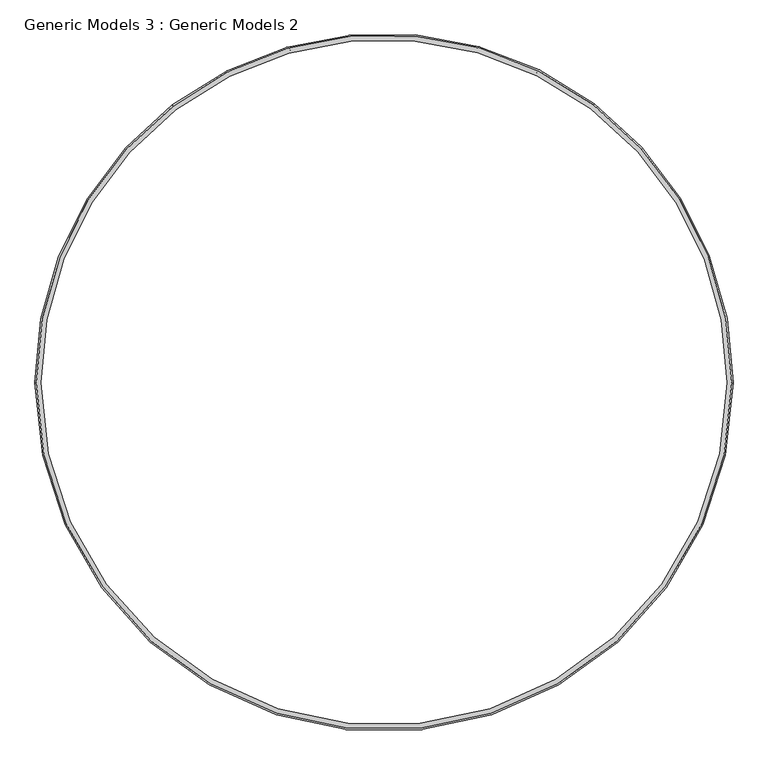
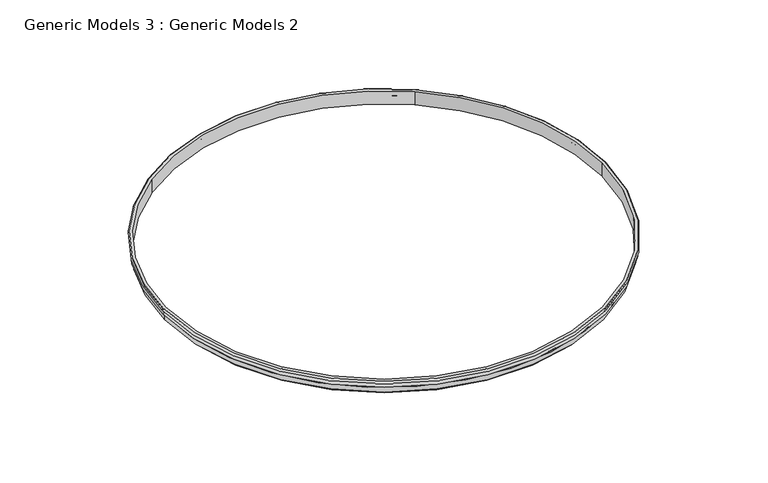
"""IFC4 building model written with IfcOpenShell, lengths in millimetres: proxy geometry, Generic Models 3 : Generic Models 2."""

from ifc_helpers import new_model, si_unit, point, frame, origin, place, context, project, spatial, polyline, circle_curve, ellipse_curve, trimmed, source, transform, mapped, element, save
from ifc_brep_helpers import plane_surface, cylinder_surface, revolved_surface, advanced_brep


def generic_models_3_generic_models_2_9ccc242b(model_context):
    return source(origin(), model_context, "Body", "AdvancedBrep", [
        advanced_brep(
        [(-5445.9379245, 4437.8273995, 10865.9753509), (-11351.0338038, 4422.8296405, 10865.9753509), (-11342.889099, 4412.1435282, 10942.1753509), (-5454.0282434, 4427.1000535, 10942.1753509), (-5461.6753231, 4416.9604198, 10840.5753509), (-11335.190613, 4402.0428692, 10840.5753509), (-11335.190613, 4402.0428692, 10865.9753509), (-5461.6753231, 4416.9604198, 10865.9753509), (-5469.3224029, 4406.8207861, 10726.2753509), (-11327.492127, 4391.9422102, 10726.2753509), (-11327.492127, 4391.9422102, 10840.5753509), (-5469.3224029, 4406.8207861, 10840.5753509), (-5480.7930225, 4391.6113356, 10700.8753509), (-11315.9443979, 4376.7912216, 10700.8753509), (-11315.9443979, 4376.7912216, 10726.2753509), (-5480.7930225, 4391.6113356, 10726.2753509), (-5490.3518721, 4378.9367934, 11005.6753509), (-11306.3212904, 4364.1653978, 11005.6753509), (-11306.3212904, 4364.1653978, 10700.8753509), (-5490.3518721, 4378.9367934, 10700.8753509), (-5448.2929336, 4434.7047788, 10942.1753509), (-11348.6629635, 4419.7190225, 10942.1753509), (-11348.6629635, 4419.7190225, 11005.6753509), (-5448.2929336, 4434.7047788, 11005.6753509), (-3501.5339746, 536.0156211, 10865.9753509), (-3514.9700906, 536.0156211, 10942.1753509), (-3527.6700906, 536.0156211, 10840.5753509), (-3527.6700906, 536.0156211, 10865.9753509), (-3540.3700906, 536.0156211, 10726.2753509), (-3540.3700906, 536.0156211, 10840.5753509), (-3559.4200906, 536.0156211, 10700.8753509), (-3559.4200906, 536.0156211, 10726.2753509), (-3575.2950906, 536.0156211, 11005.6753509), (-3575.2950906, 536.0156211, 10700.8753509), (-3505.4450906, 536.0156211, 10942.1753509), (-3505.4450906, 536.0156211, 11005.6753509), (-13275.6562065, 536.0156211, 10865.9753509), (-13262.2200906, 536.0156211, 10942.1753509), (-13249.5200906, 536.0156211, 10840.5753509), (-13249.5200906, 536.0156211, 10865.9753509), (-13236.8200906, 536.0156211, 10726.2753509), (-13236.8200906, 536.0156211, 10840.5753509), (-13217.7700906, 536.0156211, 10700.8753509), (-13217.7700906, 536.0156211, 10726.2753509), (-13201.8950906, 536.0156211, 11005.6753509), (-13201.8950906, 536.0156211, 10700.8753509), (-13271.7450906, 536.0156211, 10942.1753509), (-13271.7450906, 536.0156211, 11005.6753509)],
        [
            (0, 1, circle_curve(frame((-8388.5950906, 536.0156211, 10865.9753509), z_axis=(0.0, 0.0, 1.0), x_axis=(-0.6061800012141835, 0.7953274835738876, 0.0)), 4887.0611159)),
            (1, 2, circle_curve(frame((-11362.6062089, 4438.0130049, 10908.6261326), z_axis=(-0.7953274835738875, -0.6061800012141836, 0.0), x_axis=(-0.6061800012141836, 0.7953274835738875, 0.0)), 46.7284099)),
            (2, 3, circle_curve(frame((-8388.5950906, 536.0156211, 10942.1753509), z_axis=(0.0, 0.0, -1.0), x_axis=(-0.6061800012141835, 0.7953274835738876, 0.0)), 4873.625)),
            (3, 0, circle_curve(frame((-5434.4427936, 4453.0693508, 10908.6261326), z_axis=(0.7983963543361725, -0.6021322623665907, 0.0), x_axis=(0.6021322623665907, 0.7983963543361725, 0.0)), 46.7284099)),
            (4, 5, circle_curve(frame((-8388.5950906, 536.0156211, 10840.5753509), z_axis=(0.0, 0.0, 1.0), x_axis=(-0.6061800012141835, 0.7953274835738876, 0.0)), 4860.925)),
            (5, 6),
            (6, 7, circle_curve(frame((-8388.5950906, 536.0156211, 10865.9753509), z_axis=(0.0, 0.0, -1.0), x_axis=(-0.6061800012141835, 0.7953274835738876, 0.0)), 4860.925)),
            (7, 4),
            (8, 9, circle_curve(frame((-8388.5950906, 536.0156211, 10726.2753509), z_axis=(0.0, 0.0, 1.0), x_axis=(-0.6061800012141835, 0.7953274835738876, 0.0)), 4848.225)),
            (9, 10),
            (10, 11, circle_curve(frame((-8388.5950906, 536.0156211, 10840.5753509), z_axis=(0.0, 0.0, -1.0), x_axis=(-0.6061800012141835, 0.7953274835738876, 0.0)), 4848.225)),
            (11, 8),
            (12, 13, circle_curve(frame((-8388.5950906, 536.0156211, 10700.8753509), z_axis=(0.0, 0.0, 1.0), x_axis=(-0.6061800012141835, 0.7953274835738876, 0.0)), 4829.175)),
            (13, 14),
            (14, 15, circle_curve(frame((-8388.5950906, 536.0156211, 10726.2753509), z_axis=(0.0, 0.0, -1.0), x_axis=(-0.6061800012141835, 0.7953274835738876, 0.0)), 4829.175)),
            (15, 12),
            (16, 17, circle_curve(frame((-8388.5950906, 536.0156211, 11005.6753509), z_axis=(0.0, 0.0, 1.0), x_axis=(-0.6061800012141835, 0.7953274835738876, 0.0)), 4813.3)),
            (17, 18),
            (18, 19, circle_curve(frame((-8388.5950906, 536.0156211, 10700.8753509), z_axis=(0.0, 0.0, -1.0), x_axis=(-0.6061800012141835, 0.7953274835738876, 0.0)), 4813.3)),
            (19, 16),
            (20, 21, circle_curve(frame((-8388.5950906, 536.0156211, 10942.1753509), z_axis=(0.0, 0.0, 1.0), x_axis=(-0.6061800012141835, 0.7953274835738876, 0.0)), 4883.15)),
            (21, 22, circle_curve(frame((-11338.4463671, 4406.3145224, 10973.9253509), z_axis=(0.7953274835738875, 0.6061800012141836, 0.0), x_axis=(-0.6061800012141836, 0.7953274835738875, 0.0)), 35.946098)),
            (22, 23, circle_curve(frame((-8388.5950906, 536.0156211, 11005.6753509), z_axis=(0.0, 0.0, -1.0), x_axis=(-0.6061800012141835, 0.7953274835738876, 0.0)), 4883.15)),
            (23, 20, circle_curve(frame((-5458.4413091, 4421.2485558, 10973.9253509), z_axis=(-0.7983963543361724, 0.6021322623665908, 0.0), x_axis=(0.6021322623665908, 0.7983963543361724, 0.0)), 35.946098)),
            (24, 0, circle_curve(frame((-8388.5950906, 536.0156211, 10865.9753509), z_axis=(0.0, 0.0, 1.0), x_axis=(0.6021322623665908, 0.7983963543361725, 0.0)), 4887.0611159)),
            (3, 25, circle_curve(frame((-8388.5950906, 536.0156211, 10942.1753509), z_axis=(0.0, 0.0, -1.0), x_axis=(0.6021322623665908, 0.7983963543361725, 0.0)), 4873.625)),
            (25, 24, circle_curve(frame((-3482.4432671, 536.0156211, 10908.6261326), z_axis=(0.0, -1.0000000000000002, 0.0), x_axis=(1.0000000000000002, 0.0, 0.0)), 46.7284099)),
            (26, 4, circle_curve(frame((-8388.5950906, 536.0156211, 10840.5753509), z_axis=(0.0, 0.0, 1.0), x_axis=(0.6021322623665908, 0.7983963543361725, 0.0)), 4860.925)),
            (7, 27, circle_curve(frame((-8388.5950906, 536.0156211, 10865.9753509), z_axis=(0.0, 0.0, -1.0), x_axis=(0.6021322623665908, 0.7983963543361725, 0.0)), 4860.925)),
            (27, 26),
            (28, 8, circle_curve(frame((-8388.5950906, 536.0156211, 10726.2753509), z_axis=(0.0, 0.0, 1.0), x_axis=(0.6021322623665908, 0.7983963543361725, 0.0)), 4848.225)),
            (11, 29, circle_curve(frame((-8388.5950906, 536.0156211, 10840.5753509), z_axis=(0.0, 0.0, -1.0), x_axis=(0.6021322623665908, 0.7983963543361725, 0.0)), 4848.225)),
            (29, 28),
            (30, 12, circle_curve(frame((-8388.5950906, 536.0156211, 10700.8753509), z_axis=(0.0, 0.0, 1.0), x_axis=(0.6021322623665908, 0.7983963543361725, 0.0)), 4829.175)),
            (15, 31, circle_curve(frame((-8388.5950906, 536.0156211, 10726.2753509), z_axis=(0.0, 0.0, -1.0), x_axis=(0.6021322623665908, 0.7983963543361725, 0.0)), 4829.175)),
            (31, 30),
            (32, 16, circle_curve(frame((-8388.5950906, 536.0156211, 11005.6753509), z_axis=(0.0, 0.0, 1.0), x_axis=(0.6021322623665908, 0.7983963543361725, 0.0)), 4813.3)),
            (19, 33, circle_curve(frame((-8388.5950906, 536.0156211, 10700.8753509), z_axis=(0.0, 0.0, -1.0), x_axis=(0.6021322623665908, 0.7983963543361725, 0.0)), 4813.3)),
            (33, 32),
            (34, 20, circle_curve(frame((-8388.5950906, 536.0156211, 10942.1753509), z_axis=(0.0, 0.0, 1.0), x_axis=(0.6021322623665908, 0.7983963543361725, 0.0)), 4883.15)),
            (23, 35, circle_curve(frame((-8388.5950906, 536.0156211, 11005.6753509), z_axis=(0.0, 0.0, -1.0), x_axis=(0.6021322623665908, 0.7983963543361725, 0.0)), 4883.15)),
            (35, 34, circle_curve(frame((-3522.2991543, 536.0156211, 10973.9253509), z_axis=(0.0, 1.0000000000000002, 0.0), x_axis=(1.0000000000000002, 0.0, 0.0)), 35.946098)),
            (36, 24, circle_curve(frame((-8388.5950906, 536.0156211, 10865.9753509), z_axis=(0.0, 0.0, 1.0), x_axis=(1.0, 0.0, 0.0)), 4887.0611159)),
            (25, 37, circle_curve(frame((-8388.5950906, 536.0156211, 10942.1753509), z_axis=(0.0, 0.0, -1.0), x_axis=(1.0, 0.0, 0.0)), 4873.625)),
            (37, 36, circle_curve(frame((-13294.746914, 536.0156211, 10908.6261326), z_axis=(0.0, 1.0, 0.0), x_axis=(-1.0, 0.0, 0.0)), 46.7284099)),
            (38, 26, circle_curve(frame((-8388.5950906, 536.0156211, 10840.5753509), z_axis=(0.0, 0.0, 1.0), x_axis=(1.0, 0.0, 0.0)), 4860.925)),
            (27, 39, circle_curve(frame((-8388.5950906, 536.0156211, 10865.9753509), z_axis=(0.0, 0.0, -1.0), x_axis=(1.0, 0.0, 0.0)), 4860.925)),
            (39, 38),
            (40, 28, circle_curve(frame((-8388.5950906, 536.0156211, 10726.2753509), z_axis=(0.0, 0.0, 1.0), x_axis=(1.0, 0.0, 0.0)), 4848.225)),
            (29, 41, circle_curve(frame((-8388.5950906, 536.0156211, 10840.5753509), z_axis=(0.0, 0.0, -1.0), x_axis=(1.0, 0.0, 0.0)), 4848.225)),
            (41, 40),
            (42, 30, circle_curve(frame((-8388.5950906, 536.0156211, 10700.8753509), z_axis=(0.0, 0.0, 1.0), x_axis=(1.0, 0.0, 0.0)), 4829.175)),
            (31, 43, circle_curve(frame((-8388.5950906, 536.0156211, 10726.2753509), z_axis=(0.0, 0.0, -1.0), x_axis=(1.0, 0.0, 0.0)), 4829.175)),
            (43, 42),
            (44, 32, circle_curve(frame((-8388.5950906, 536.0156211, 11005.6753509), z_axis=(0.0, 0.0, 1.0), x_axis=(1.0, 0.0, 0.0)), 4813.3)),
            (33, 45, circle_curve(frame((-8388.5950906, 536.0156211, 10700.8753509), z_axis=(0.0, 0.0, -1.0), x_axis=(1.0, 0.0, 0.0)), 4813.3)),
            (45, 44),
            (46, 34, circle_curve(frame((-8388.5950906, 536.0156211, 10942.1753509), z_axis=(0.0, 0.0, 1.0), x_axis=(1.0, 0.0, 0.0)), 4883.15)),
            (35, 47, circle_curve(frame((-8388.5950906, 536.0156211, 11005.6753509), z_axis=(0.0, 0.0, -1.0), x_axis=(1.0, 0.0, 0.0)), 4883.15)),
            (47, 46, circle_curve(frame((-13254.8910268, 536.0156211, 10973.9253509), z_axis=(0.0, -1.0, 0.0), x_axis=(-1.0, 0.0, 0.0)), 35.946098)),
            (1, 36, circle_curve(frame((-8388.5950906, 536.0156211, 10865.9753509), z_axis=(0.0, 0.0, 1.0), x_axis=(-1.0, 0.0, 0.0)), 4887.0611159)),
            (37, 2, circle_curve(frame((-8388.5950906, 536.0156211, 10942.1753509), z_axis=(0.0, 0.0, -1.0), x_axis=(-1.0, 0.0, 0.0)), 4873.625)),
            (6, 39, circle_curve(frame((-8388.5950906, 536.0156211, 10865.9753509), z_axis=(0.0, 0.0, 1.0), x_axis=(-1.0, 0.0, 0.0)), 4860.925)),
            (5, 38, circle_curve(frame((-8388.5950906, 536.0156211, 10840.5753509), z_axis=(0.0, 0.0, 1.0), x_axis=(-1.0, 0.0, 0.0)), 4860.925)),
            (10, 41, circle_curve(frame((-8388.5950906, 536.0156211, 10840.5753509), z_axis=(0.0, 0.0, 1.0), x_axis=(-1.0, 0.0, 0.0)), 4848.225)),
            (9, 40, circle_curve(frame((-8388.5950906, 536.0156211, 10726.2753509), z_axis=(0.0, 0.0, 1.0), x_axis=(-1.0, 0.0, 0.0)), 4848.225)),
            (14, 43, circle_curve(frame((-8388.5950906, 536.0156211, 10726.2753509), z_axis=(0.0, 0.0, 1.0), x_axis=(-1.0, 0.0, 0.0)), 4829.175)),
            (13, 42, circle_curve(frame((-8388.5950906, 536.0156211, 10700.8753509), z_axis=(0.0, 0.0, 1.0), x_axis=(-1.0, 0.0, 0.0)), 4829.175)),
            (18, 45, circle_curve(frame((-8388.5950906, 536.0156211, 10700.8753509), z_axis=(0.0, 0.0, 1.0), x_axis=(-1.0, 0.0, 0.0)), 4813.3)),
            (17, 44, circle_curve(frame((-8388.5950906, 536.0156211, 11005.6753509), z_axis=(0.0, 0.0, 1.0), x_axis=(-1.0, 0.0, 0.0)), 4813.3)),
            (22, 47, circle_curve(frame((-8388.5950906, 536.0156211, 11005.6753509), z_axis=(0.0, 0.0, 1.0), x_axis=(-1.0, 0.0, 0.0)), 4883.15)),
            (21, 46, circle_curve(frame((-8388.5950906, 536.0156211, 10942.1753509), z_axis=(0.0, 0.0, 1.0), x_axis=(-1.0, 0.0, 0.0)), 4883.15)),
        ],
        [
            revolved_surface(trimmed(ellipse_curve(frame((-11362.6062089, 4438.0130049, 10908.6261326), z_axis=(0.7953274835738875, 0.6061800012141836, 0.0), x_axis=(-0.6061800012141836, 0.7953274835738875, 0.0)), 46.7284099, 46.7284099), [point((-11342.889099, 4412.1435282, 10942.1753509))], [point((-11351.0338038, 4422.8296405, 10865.9753509))], True, "CARTESIAN"), (-8388.5950906, 536.0156211, 10490.2), (0.0, 0.0, -1.0)),
            cylinder_surface(frame((-8388.5950906, 536.0156211, 10490.2), z_axis=(0.0, 0.0, -1.0), x_axis=(-0.6061800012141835, 0.7953274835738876, 0.0)), 4860.925),
            cylinder_surface(frame((-8388.5950906, 536.0156211, 10490.2), z_axis=(0.0, 0.0, -1.0), x_axis=(-0.6061800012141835, 0.7953274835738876, 0.0)), 4848.225),
            cylinder_surface(frame((-8388.5950906, 536.0156211, 10490.2), z_axis=(0.0, 0.0, -1.0), x_axis=(-0.6061800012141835, 0.7953274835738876, 0.0)), 4829.175),
            revolved_surface(polyline([(-11306.32129044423, 4364.165397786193, 10700.8753509), (-11306.32129044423, 4364.165397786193, 11005.6753509)]), (-8388.5950906, 536.0156211, 10490.2), (0.0, 0.0, -1.0)),
            revolved_surface(trimmed(ellipse_curve(frame((-11338.4463671, 4406.3145224, 10973.9253509), z_axis=(-0.7953274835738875, -0.6061800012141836, 0.0), x_axis=(-0.6061800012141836, 0.7953274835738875, 0.0)), 35.946098, 35.946098), [point((-11348.6629635, 4419.7190225, 11005.6753509))], [point((-11348.6629635, 4419.7190225, 10942.1753509))], True, "CARTESIAN"), (-8388.5950906, 536.0156211, 10490.2), (0.0, 0.0, -1.0)),
            revolved_surface(trimmed(ellipse_curve(frame((-5434.4427936, 4453.0693508, 10908.6261326), z_axis=(0.7983963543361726, -0.6021322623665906, 0.0), x_axis=(0.6021322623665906, 0.7983963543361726, 0.0)), 46.7284099, 46.7284099), [point((-5454.0282434, 4427.1000535, 10942.1753509))], [point((-5445.9379245, 4437.8273995, 10865.9753509))], True, "CARTESIAN"), (-8388.5950906, 536.0156211, 10490.2), (0.0, 0.0, -1.0)),
            cylinder_surface(frame((-8388.5950906, 536.0156211, 10490.2), z_axis=(0.0, 0.0, -1.0), x_axis=(0.6021322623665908, 0.7983963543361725, 0.0)), 4860.925),
            cylinder_surface(frame((-8388.5950906, 536.0156211, 10490.2), z_axis=(0.0, 0.0, -1.0), x_axis=(0.6021322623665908, 0.7983963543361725, 0.0)), 4848.225),
            cylinder_surface(frame((-8388.5950906, 536.0156211, 10490.2), z_axis=(0.0, 0.0, -1.0), x_axis=(0.6021322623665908, 0.7983963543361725, 0.0)), 4829.175),
            revolved_surface(polyline([(-5490.351872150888, 4378.936793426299, 10700.8753509), (-5490.351872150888, 4378.936793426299, 11005.6753509)]), (-8388.5950906, 536.0156211, 10490.2), (0.0, 0.0, -1.0)),
            revolved_surface(trimmed(ellipse_curve(frame((-5458.4413091, 4421.2485558, 10973.9253509), z_axis=(-0.7983963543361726, 0.6021322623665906, 0.0), x_axis=(0.6021322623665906, 0.7983963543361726, 0.0)), 35.946098, 35.946098), [point((-5448.2929336, 4434.7047788, 11005.6753509))], [point((-5448.2929336, 4434.7047788, 10942.1753509))], True, "CARTESIAN"), (-8388.5950906, 536.0156211, 10490.2), (0.0, 0.0, -1.0)),
            revolved_surface(trimmed(ellipse_curve(frame((-3482.4432671, 536.0156211, 10908.6261326), z_axis=(0.0, -1.0, 0.0), x_axis=(1.0, 0.0, 0.0)), 46.7284099, 46.7284099), [point((-3514.9700906, 536.0156211, 10942.1753509))], [point((-3501.5339746, 536.0156211, 10865.9753509))], True, "CARTESIAN"), (-8388.5950906, 536.0156211, 10490.2), (0.0, 0.0, -1.0)),
            cylinder_surface(frame((-8388.5950906, 536.0156211, 10490.2), z_axis=(0.0, 0.0, -1.0), x_axis=(1.0, 0.0, 0.0)), 4860.925),
            cylinder_surface(frame((-8388.5950906, 536.0156211, 10490.2), z_axis=(0.0, 0.0, -1.0), x_axis=(1.0, 0.0, 0.0)), 4848.225),
            cylinder_surface(frame((-8388.5950906, 536.0156211, 10490.2), z_axis=(0.0, 0.0, -1.0), x_axis=(1.0, 0.0, 0.0)), 4829.175),
            revolved_surface(polyline([(-3575.2950905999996, 536.0156211, 10700.8753509), (-3575.2950905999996, 536.0156211, 11005.6753509)]), (-8388.5950906, 536.0156211, 10490.2), (0.0, 0.0, -1.0)),
            revolved_surface(trimmed(ellipse_curve(frame((-3522.2991543, 536.0156211, 10973.9253509), z_axis=(0.0, 1.0, 0.0), x_axis=(1.0, 0.0, 0.0)), 35.946098, 35.946098), [point((-3505.4450906, 536.0156211, 11005.6753509))], [point((-3505.4450906, 536.0156211, 10942.1753509))], True, "CARTESIAN"), (-8388.5950906, 536.0156211, 10490.2), (0.0, 0.0, -1.0)),
            revolved_surface(trimmed(ellipse_curve(frame((-13294.746914, 536.0156211, 10908.6261326), z_axis=(0.0, 1.0, 0.0), x_axis=(-1.0, 0.0, 0.0)), 46.7284099, 46.7284099), [point((-13262.2200906, 536.0156211, 10942.1753509))], [point((-13275.6562065, 536.0156211, 10865.9753509))], True, "CARTESIAN"), (-8388.5950906, 536.0156211, 10490.2), (0.0, 0.0, -1.0)),
            plane_surface(frame((-8388.5950906, 536.0156211, 10865.9753509), z_axis=(0.0, 0.0, -1.0), x_axis=(-1.0, 0.0, 0.0))),
            cylinder_surface(frame((-8388.5950906, 536.0156211, 10490.2), z_axis=(0.0, 0.0, -1.0), x_axis=(-1.0, 0.0, 0.0)), 4860.925),
            plane_surface(frame((-8388.5950906, 536.0156211, 10840.5753509), z_axis=(0.0, 0.0, -1.0), x_axis=(-1.0, 0.0, 0.0))),
            cylinder_surface(frame((-8388.5950906, 536.0156211, 10490.2), z_axis=(0.0, 0.0, -1.0), x_axis=(-1.0, 0.0, 0.0)), 4848.225),
            plane_surface(frame((-8388.5950906, 536.0156211, 10726.2753509), z_axis=(0.0, 0.0, -1.0), x_axis=(-1.0, 0.0, 0.0))),
            cylinder_surface(frame((-8388.5950906, 536.0156211, 10490.2), z_axis=(0.0, 0.0, -1.0), x_axis=(-1.0, 0.0, 0.0)), 4829.175),
            plane_surface(frame((-8388.5950906, 536.0156211, 10700.8753509), z_axis=(0.0, 0.0, -1.0), x_axis=(-1.0, 0.0, 0.0))),
            revolved_surface(polyline([(-13201.8950906, 536.0156211, 10700.8753509), (-13201.8950906, 536.0156211, 11005.6753509)]), (-8388.5950906, 536.0156211, 10490.2), (0.0, 0.0, -1.0)),
            plane_surface(frame((-8388.5950906, 536.0156211, 11005.6753509), z_axis=(0.0, 0.0, 1.0), x_axis=(-1.0, 0.0, 0.0))),
            revolved_surface(trimmed(ellipse_curve(frame((-13254.8910268, 536.0156211, 10973.9253509), z_axis=(0.0, -1.0, 0.0), x_axis=(-1.0, 0.0, 0.0)), 35.946098, 35.946098), [point((-13271.7450906, 536.0156211, 11005.6753509))], [point((-13271.7450906, 536.0156211, 10942.1753509))], True, "CARTESIAN"), (-8388.5950906, 536.0156211, 10490.2), (0.0, 0.0, -1.0)),
            plane_surface(frame((-8388.5950906, 536.0156211, 10942.1753509), z_axis=(0.0, 0.0, -1.0), x_axis=(-1.0, 0.0, 0.0))),
        ],
        [
            (0, [[1, 2, 3, 4]]),
            (1, [[5, 6, 7, 8]]),
            (2, [[9, 10, 11, 12]]),
            (3, [[13, 14, 15, 16]]),
            (4, [[17, 18, 19, 20]]),
            (5, [[21, 22, 23, 24]]),
            (6, [[25, -4, 26, 27]]),
            (7, [[28, -8, 29, 30]]),
            (8, [[31, -12, 32, 33]]),
            (9, [[34, -16, 35, 36]]),
            (10, [[37, -20, 38, 39]]),
            (11, [[40, -24, 41, 42]]),
            (12, [[43, -27, 44, 45]]),
            (13, [[46, -30, 47, 48]]),
            (14, [[49, -33, 50, 51]]),
            (15, [[52, -36, 53, 54]]),
            (16, [[55, -39, 56, 57]]),
            (17, [[58, -42, 59, 60]]),
            (18, [[61, -45, 62, -2]]),
            (19, [[-25, -43, -61, -1], [63, -47, -29, -7]]),
            (20, [[64, -48, -63, -6]]),
            (21, [[-28, -46, -64, -5], [65, -50, -32, -11]]),
            (22, [[66, -51, -65, -10]]),
            (23, [[-31, -49, -66, -9], [67, -53, -35, -15]]),
            (24, [[68, -54, -67, -14]]),
            (25, [[-34, -52, -68, -13], [69, -56, -38, -19]]),
            (26, [[70, -57, -69, -18]]),
            (27, [[71, -59, -41, -23], [-37, -55, -70, -17]]),
            (28, [[72, -60, -71, -22]]),
            (29, [[-40, -58, -72, -21], [-62, -44, -26, -3]]),
        ],
    ),
    ])


if __name__ == "__main__":
    model = new_model("IFC4")
    model_context = context("Model", 3, world=origin())
    ifc_project = project(units=[si_unit("LENGTHUNIT", "METRE", prefix="MILLI")], contexts=[model_context])
    site = spatial("IfcSite", under=ifc_project)
    building = spatial("IfcBuilding", under=site)
    placement = place(None, origin())
    generic_models_3_generic_models_2_shape = generic_models_3_generic_models_2_9ccc242b(model_context)
    element("IfcBuildingElementProxy", 1, Name="Generic Models 3 : Generic Models 2", ObjectType="Generic Models 3 : Generic Models 2", at=placement, inside=building, context=model_context, shape_type="MappedRepresentation", body=[
        mapped(generic_models_3_generic_models_2_shape, transform((0.0, 0.0, 0.0), x_axis=(1.0, 0.0, 0.0), y_axis=(0.0, 1.0, 0.0), z_axis=(0.0, 0.0, 1.0))),
    ])
    save(model, "model.ifc")
